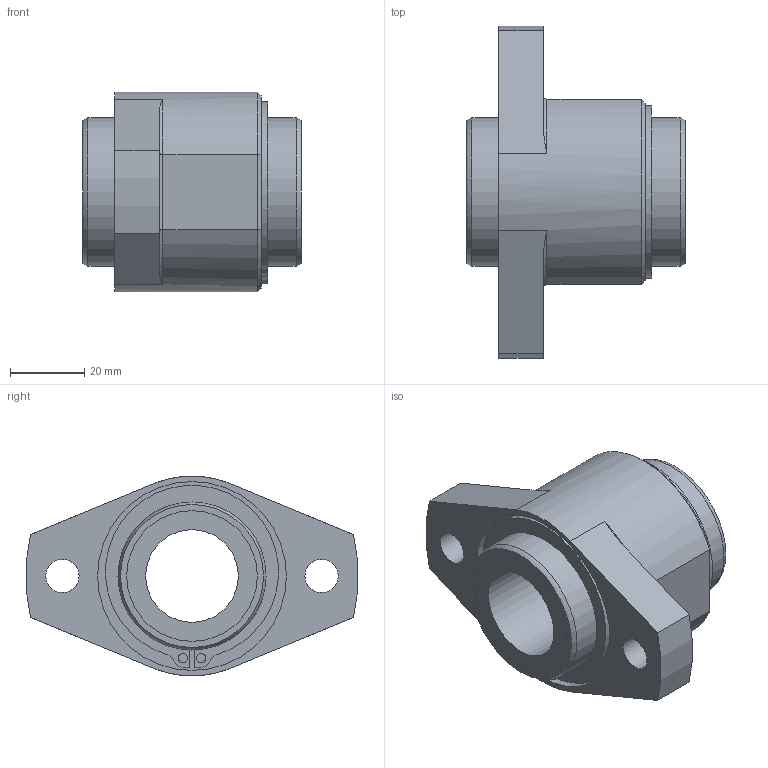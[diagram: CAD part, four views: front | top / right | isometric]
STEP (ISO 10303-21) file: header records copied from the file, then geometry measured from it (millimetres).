
FILE_DESCRIPTION((''),'2;1');
FILE_NAME('D:\製品 (図面)\カタログ用3D\シャフトブロック\LFH\LFH25.stp','2010-01-28T15:55:47',('Tsuchiya'),(''),'Autodesk Inventor 10','Autodesk Inventor 10','');
FILE_SCHEMA(('AUTOMOTIVE_DESIGN { 1 0 10303 214 1 1 1 1 }'));
Length unit declared in the file: millimetre
Products named in the file (1): LFH25
Bounding box: 59 x 89.69 x 54 mm (x, y, z)
Volume: 97496.8 mm3; surface area: 22047.8 mm2
Topology: 1 solids, 1 shells, 75 faces, 170 edges, 110 vertices
Faces by surface type: plane 26, cylinder 23, bspline 22, torus 2, cone 2
Full cylindrical faces by diameter (mm): 2.5 x2, 25 x1, 35.3 x2, 38 x2, 40 x2, 51 x1
Entity records: 2338 total; most frequent: CARTESIAN_POINT 726, DIRECTION 328, ORIENTED_EDGE 300, EDGE_CURVE 150, AXIS2_PLACEMENT_3D 136, EDGE_LOOP 112, VERTEX_POINT 108, CIRCLE 82
